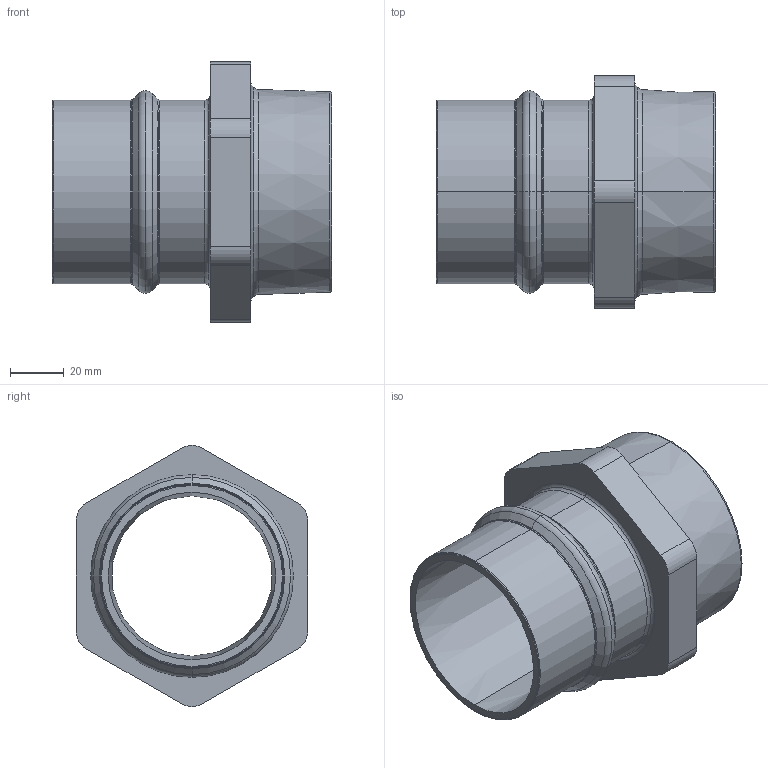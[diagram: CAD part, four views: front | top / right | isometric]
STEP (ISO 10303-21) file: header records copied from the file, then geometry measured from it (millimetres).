
FILE_DESCRIPTION((''),'2;1');
FILE_NAME('2014661700','2017-05-15T',('Administrator'),(''),'PRO/ENGINEER BY PARAMETRIC TECHNOLOGY CORPORATION, 2009360','PRO/ENGINEER BY PARAMETRIC TECHNOLOGY CORPORATION, 2009360','');
FILE_SCHEMA(('AUTOMOTIVE_DESIGN_CC2 { 1 2 10303 214 -1 1 5 2 }'));
Length unit declared in the file: millimetre
Products named in the file (1): 2014661700
Bounding box: 104.27 x 86.44 x 97.31 mm (x, y, z)
Volume: 150261.8 mm3; surface area: 51230.8 mm2
Topology: 1 solids, 1 shells, 56 faces, 126 edges, 74 vertices
Faces by surface type: torus 28, plane 10, cylinder 10, cone 8
Entity records: 2005 total; most frequent: DIRECTION 328, CARTESIAN_POINT 256, ORIENTED_EDGE 252, AXIS2_PLACEMENT_3D 146, PRESENTATION_STYLE_ASSIGNMENT 127, STYLED_ITEM 127, CURVE_STYLE 126, EDGE_CURVE 126
